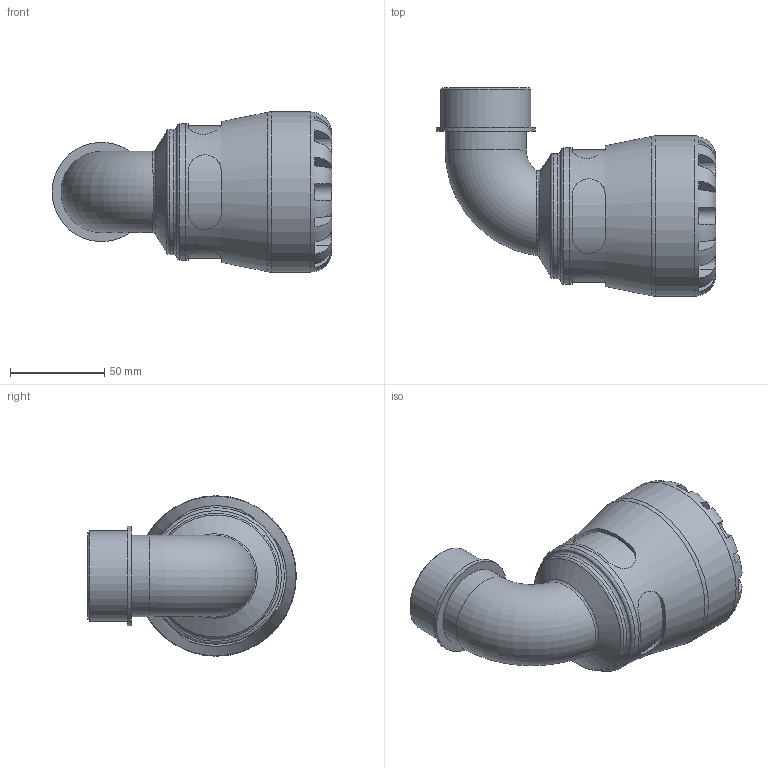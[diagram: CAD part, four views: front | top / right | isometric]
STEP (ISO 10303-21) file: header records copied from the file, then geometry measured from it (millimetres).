
FILE_DESCRIPTION(/* description */ ('PLASSON 90° ELBOW WITH THREADED MALE OFFTAKE 50X1.1/2" SERIES 1'),/* implementation_level */ '2;1');
FILE_NAME(/* name */ 'C:\Dropbox\KIMPROJECTS-Inventor\99-16-3568-Processing\S1\27.01.19\1085\108500050015_198500050015.ipt.stp',/* time_stamp */ '2019-01-27T09:13:41+02:00',/* author */ ('KIM'),/* organization */ (''),/* preprocessor_version */ 'ST-DEVELOPER v15.6',/* originating_system */ 'Autodesk Inventor 2015',/* authorisation */ '');
FILE_SCHEMA (('AUTOMOTIVE_DESIGN { 1 0 10303 214 3 1 1 }'));
Length unit declared in the file: millimetre
Products named in the file (1): 108500050015_198500050015
Bounding box: 148.29 x 110.5 x 85 mm (x, y, z)
Volume: 314503.1 mm3; surface area: 66433.9 mm2
Topology: 1 solids, 1 shells, 110 faces, 269 edges, 167 vertices
Faces by surface type: plane 61, cylinder 37, torus 7, bspline 3, cone 2
Full cylindrical faces by diameter (mm): 33.462 x2, 43.023 x1, 47.803 x1, 50 x1, 52.583 x1, 66.3 x1, 72.25 x1, 85 x1
Entity records: 4343 total; most frequent: CARTESIAN_POINT 1803, ORIENTED_EDGE 488, DIRECTION 487, EDGE_CURVE 244, AXIS2_PLACEMENT_3D 203, VERTEX_POINT 161, EDGE_LOOP 137, STYLED_ITEM 111
